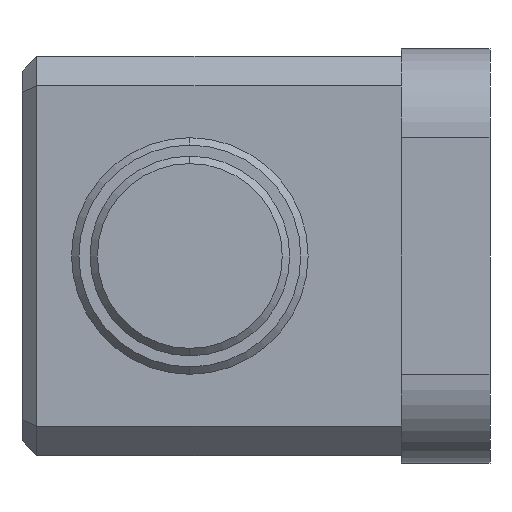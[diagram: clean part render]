
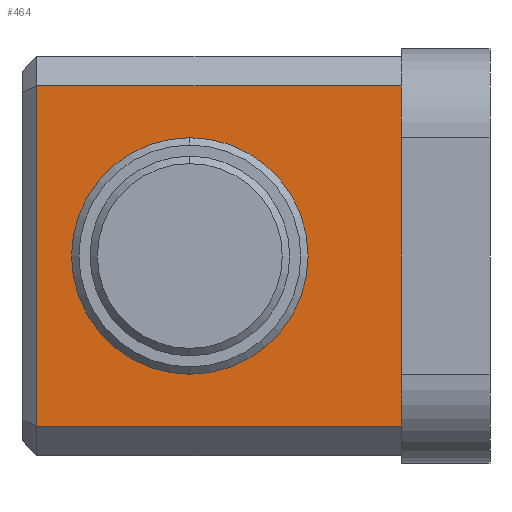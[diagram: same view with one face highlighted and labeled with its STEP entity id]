
A CAD part, left-side view. The second image highlights one B-rep face of the part: STEP entity #464.
In plain terms, the highlighted planar face has unit normal (-1, 0, 0).
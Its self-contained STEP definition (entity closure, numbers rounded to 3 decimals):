
#41 = LINE ( 'NONE', #2186, #1967 ) ;
#72 = DIRECTION ( 'NONE',  ( 0., 1., 0. ) ) ;
#77 = CARTESIAN_POINT ( 'NONE',  ( -7.5, 26.5, 8. ) ) ;
#178 = ORIENTED_EDGE ( 'NONE', *, *, #1848, .T. ) ;
#263 = VERTEX_POINT ( 'NONE', #1407 ) ;
#350 = CARTESIAN_POINT ( 'NONE',  ( -7.5, 12.2, 11.5 ) ) ;
#354 = DIRECTION ( 'NONE',  ( 0., -1., 0. ) ) ;
#388 = EDGE_CURVE ( 'NONE', #596, #1282, #1732, .T. ) ;
#398 = ORIENTED_EDGE ( 'NONE', *, *, #1106, .F. ) ;
#423 = ORIENTED_EDGE ( 'NONE', *, *, #1944, .T. ) ;
#448 = AXIS2_PLACEMENT_3D ( 'NONE', #963, #1200, #1573 ) ;
#464 = ADVANCED_FACE ( 'NONE', ( #1393, #638 ), #1767, .T. ) ;
#465 = ORIENTED_EDGE ( 'NONE', *, *, #388, .T. ) ;
#561 = VERTEX_POINT ( 'NONE', #77 ) ;
#562 = CARTESIAN_POINT ( 'NONE',  ( -7.5, 12.2, -11.5 ) ) ;
#596 = VERTEX_POINT ( 'NONE', #2201 ) ;
#621 = AXIS2_PLACEMENT_3D ( 'NONE', #1491, #2468, #2109 ) ;
#638 = FACE_OUTER_BOUND ( 'NONE', #880, .T. ) ;
#659 = CARTESIAN_POINT ( 'NONE',  ( -7.5, 37.85, 11.5 ) ) ;
#782 = LINE ( 'NONE', #659, #2128 ) ;
#833 = DIRECTION ( 'NONE',  ( 0., 0., -1. ) ) ;
#880 = EDGE_LOOP ( 'NONE', ( #1756, #423, #465, #398 ) ) ;
#963 = CARTESIAN_POINT ( 'NONE',  ( -7.5, 37.85, 13.5 ) ) ;
#995 = EDGE_CURVE ( 'NONE', #263, #561, #2172, .T. ) ;
#1106 = EDGE_CURVE ( 'NONE', #2067, #1282, #1858, .T. ) ;
#1193 = CARTESIAN_POINT ( 'NONE',  ( -7.5, 12.2, -11.5 ) ) ;
#1200 = DIRECTION ( 'NONE',  ( -1., 0., 0. ) ) ;
#1233 = VECTOR ( 'NONE', #1473, 1000. ) ;
#1243 = EDGE_CURVE ( 'NONE', #2067, #1873, #782, .T. ) ;
#1282 = VERTEX_POINT ( 'NONE', #1193 ) ;
#1292 = CARTESIAN_POINT ( 'NONE',  ( -7.5, 12.2, -13.5 ) ) ;
#1393 = FACE_BOUND ( 'NONE', #2125, .T. ) ;
#1407 = CARTESIAN_POINT ( 'NONE',  ( -7.5, 26.5, -8. ) ) ;
#1422 = CARTESIAN_POINT ( 'NONE',  ( -7.5, 26.5, 0. ) ) ;
#1473 = DIRECTION ( 'NONE',  ( 0., 0., -1. ) ) ;
#1491 = CARTESIAN_POINT ( 'NONE',  ( -7.5, 26.5, 0. ) ) ;
#1573 = DIRECTION ( 'NONE',  ( 0., 0., 1. ) ) ;
#1732 = LINE ( 'NONE', #562, #2434 ) ;
#1748 = CIRCLE ( 'NONE', #621, 8. ) ;
#1756 = ORIENTED_EDGE ( 'NONE', *, *, #1243, .T. ) ;
#1767 = PLANE ( 'NONE',  #448 ) ;
#1848 = EDGE_CURVE ( 'NONE', #561, #263, #1748, .T. ) ;
#1858 = LINE ( 'NONE', #1292, #1233 ) ;
#1873 = VERTEX_POINT ( 'NONE', #2147 ) ;
#1917 = AXIS2_PLACEMENT_3D ( 'NONE', #1422, #2407, #2025 ) ;
#1944 = EDGE_CURVE ( 'NONE', #1873, #596, #41, .T. ) ;
#1967 = VECTOR ( 'NONE', #833, 1000. ) ;
#2025 = DIRECTION ( 'NONE',  ( 0., 0., 1. ) ) ;
#2067 = VERTEX_POINT ( 'NONE', #350 ) ;
#2109 = DIRECTION ( 'NONE',  ( 0., 0., 1. ) ) ;
#2125 = EDGE_LOOP ( 'NONE', ( #178, #2197 ) ) ;
#2128 = VECTOR ( 'NONE', #72, 1000. ) ;
#2147 = CARTESIAN_POINT ( 'NONE',  ( -7.5, 36.85, 11.5 ) ) ;
#2172 = CIRCLE ( 'NONE', #1917, 8. ) ;
#2186 = CARTESIAN_POINT ( 'NONE',  ( -7.5, 36.85, -11.5 ) ) ;
#2197 = ORIENTED_EDGE ( 'NONE', *, *, #995, .T. ) ;
#2201 = CARTESIAN_POINT ( 'NONE',  ( -7.5, 36.85, -11.5 ) ) ;
#2407 = DIRECTION ( 'NONE',  ( 1., 0., 0. ) ) ;
#2434 = VECTOR ( 'NONE', #354, 1000. ) ;
#2468 = DIRECTION ( 'NONE',  ( 1., 0., 0. ) ) ;
